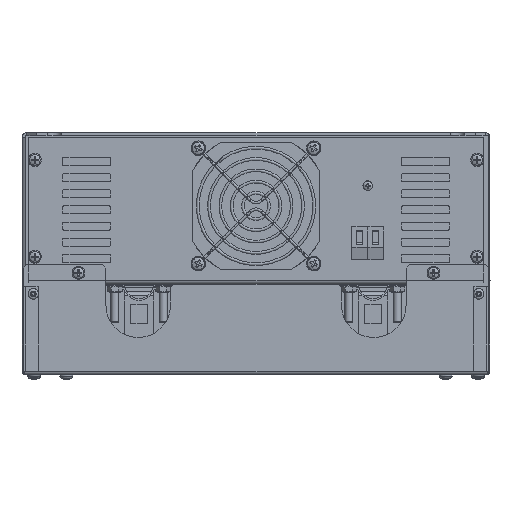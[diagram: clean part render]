
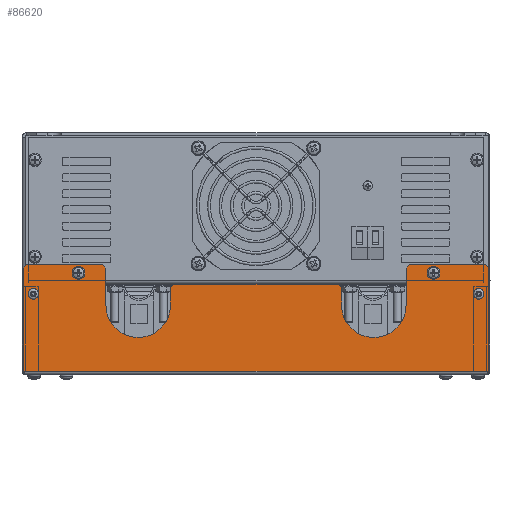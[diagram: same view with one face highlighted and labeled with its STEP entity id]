
A CAD part, left-side view. The second image highlights one B-rep face of the part: STEP entity #86620.
In plain terms, the highlighted planar face has unit normal (-1, 0, 0).
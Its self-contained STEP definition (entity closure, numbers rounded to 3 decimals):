
#1431=FACE_BOUND('',#10617,.T.);
#1432=FACE_BOUND('',#10618,.T.);
#1433=FACE_BOUND('',#10619,.T.);
#1434=FACE_BOUND('',#10620,.T.);
#2852=PLANE('',#93436);
#5902=FACE_OUTER_BOUND('',#10616,.T.);
#10616=EDGE_LOOP('',(#62495,#62496,#62497,#62498,#62499,#62500,#62501,#62502,
#62503,#62504,#62505,#62506,#62507,#62508,#62509,#62510,#62511,#62512));
#10617=EDGE_LOOP('',(#62513));
#10618=EDGE_LOOP('',(#62514));
#10619=EDGE_LOOP('',(#62515,#62516));
#10620=EDGE_LOOP('',(#62517,#62518));
#15666=CIRCLE('',#91750,3.25);
#15685=CIRCLE('',#91782,3.25);
#15884=CIRCLE('',#92067,4.);
#15885=CIRCLE('',#92068,4.);
#16085=CIRCLE('',#92436,4.);
#16086=CIRCLE('',#92437,4.);
#16552=CIRCLE('',#93342,20.);
#16554=CIRCLE('',#93345,20.);
#21086=LINE('',#137866,#28592);
#21100=LINE('',#137907,#28606);
#21107=LINE('',#137931,#28613);
#21110=LINE('',#137936,#28616);
#21113=LINE('',#137941,#28619);
#21125=LINE('',#138009,#28631);
#21188=LINE('',#138246,#28694);
#21192=LINE('',#138254,#28698);
#21194=LINE('',#138257,#28700);
#21198=LINE('',#138264,#28704);
#21200=LINE('',#138267,#28706);
#21213=LINE('',#138395,#28719);
#21261=LINE('',#138545,#28767);
#21262=LINE('',#138548,#28768);
#21263=LINE('',#138549,#28769);
#21264=LINE('',#138550,#28770);
#28592=VECTOR('',#108008,10.);
#28606=VECTOR('',#108030,10.);
#28613=VECTOR('',#108053,10.);
#28616=VECTOR('',#108058,10.);
#28619=VECTOR('',#108063,10.);
#28631=VECTOR('',#108087,10.);
#28694=VECTOR('',#108218,10.);
#28698=VECTOR('',#108224,10.);
#28700=VECTOR('',#108228,10.);
#28704=VECTOR('',#108234,10.);
#28706=VECTOR('',#108238,10.);
#28719=VECTOR('',#108269,10.);
#28767=VECTOR('',#108381,10.);
#28768=VECTOR('',#108384,10.);
#28769=VECTOR('',#108385,10.);
#28770=VECTOR('',#108386,10.);
#36262=VERTEX_POINT('',#129751);
#36279=VERTEX_POINT('',#129834);
#36629=VERTEX_POINT('',#131398);
#36630=VERTEX_POINT('',#131399);
#36970=VERTEX_POINT('',#133690);
#36971=VERTEX_POINT('',#133691);
#37781=VERTEX_POINT('',#137860);
#37782=VERTEX_POINT('',#137865);
#37792=VERTEX_POINT('',#137901);
#37794=VERTEX_POINT('',#137905);
#37795=VERTEX_POINT('',#137909);
#37797=VERTEX_POINT('',#137915);
#37798=VERTEX_POINT('',#137916);
#37803=VERTEX_POINT('',#137930);
#37804=VERTEX_POINT('',#137934);
#37805=VERTEX_POINT('',#137939);
#37813=VERTEX_POINT('',#138006);
#37853=VERTEX_POINT('',#138242);
#37855=VERTEX_POINT('',#138245);
#37857=VERTEX_POINT('',#138251);
#37860=VERTEX_POINT('',#138261);
#37869=VERTEX_POINT('',#138392);
#37900=VERTEX_POINT('',#138542);
#37901=VERTEX_POINT('',#138547);
#44916=EDGE_CURVE('',#36262,#36262,#15666,.T.);
#44942=EDGE_CURVE('',#36279,#36279,#15685,.T.);
#45375=EDGE_CURVE('',#36629,#36630,#15884,.T.);
#45376=EDGE_CURVE('',#36630,#36629,#15885,.T.);
#45870=EDGE_CURVE('',#36970,#36971,#16085,.T.);
#45871=EDGE_CURVE('',#36971,#36970,#16086,.T.);
#47070=EDGE_CURVE('',#37781,#37782,#21086,.T.);
#47086=EDGE_CURVE('',#37792,#37794,#21100,.T.);
#47087=EDGE_CURVE('',#37794,#37795,#16552,.T.);
#47090=EDGE_CURVE('',#37797,#37798,#16554,.T.);
#47097=EDGE_CURVE('',#37792,#37803,#21107,.T.);
#47100=EDGE_CURVE('',#37798,#37804,#21110,.T.);
#47103=EDGE_CURVE('',#37805,#37804,#21113,.T.);
#47119=EDGE_CURVE('',#37813,#37781,#21125,.T.);
#47192=EDGE_CURVE('',#37855,#37853,#21188,.T.);
#47196=EDGE_CURVE('',#37795,#37857,#21192,.T.);
#47198=EDGE_CURVE('',#37855,#37857,#21194,.T.);
#47202=EDGE_CURVE('',#37860,#37797,#21198,.T.);
#47204=EDGE_CURVE('',#37860,#37853,#21200,.T.);
#47222=EDGE_CURVE('',#37869,#37805,#21213,.T.);
#47278=EDGE_CURVE('',#37900,#37782,#21261,.T.);
#47279=EDGE_CURVE('',#37901,#37813,#21262,.T.);
#47280=EDGE_CURVE('',#37901,#37803,#21263,.T.);
#47281=EDGE_CURVE('',#37900,#37869,#21264,.T.);
#62495=ORIENTED_EDGE('',*,*,#47279,.F.);
#62496=ORIENTED_EDGE('',*,*,#47280,.T.);
#62497=ORIENTED_EDGE('',*,*,#47097,.F.);
#62498=ORIENTED_EDGE('',*,*,#47086,.T.);
#62499=ORIENTED_EDGE('',*,*,#47087,.T.);
#62500=ORIENTED_EDGE('',*,*,#47196,.T.);
#62501=ORIENTED_EDGE('',*,*,#47198,.F.);
#62502=ORIENTED_EDGE('',*,*,#47192,.T.);
#62503=ORIENTED_EDGE('',*,*,#47204,.F.);
#62504=ORIENTED_EDGE('',*,*,#47202,.T.);
#62505=ORIENTED_EDGE('',*,*,#47090,.T.);
#62506=ORIENTED_EDGE('',*,*,#47100,.T.);
#62507=ORIENTED_EDGE('',*,*,#47103,.F.);
#62508=ORIENTED_EDGE('',*,*,#47222,.F.);
#62509=ORIENTED_EDGE('',*,*,#47281,.F.);
#62510=ORIENTED_EDGE('',*,*,#47278,.T.);
#62511=ORIENTED_EDGE('',*,*,#47070,.F.);
#62512=ORIENTED_EDGE('',*,*,#47119,.F.);
#62513=ORIENTED_EDGE('',*,*,#44916,.T.);
#62514=ORIENTED_EDGE('',*,*,#44942,.T.);
#62515=ORIENTED_EDGE('',*,*,#45375,.T.);
#62516=ORIENTED_EDGE('',*,*,#45376,.T.);
#62517=ORIENTED_EDGE('',*,*,#45870,.T.);
#62518=ORIENTED_EDGE('',*,*,#45871,.T.);
#86620=ADVANCED_FACE('',(#5902,#1431,#1432,#1433,#1434),#2852,.T.);
#91750=AXIS2_PLACEMENT_3D('',#129752,#104072,#104073);
#91782=AXIS2_PLACEMENT_3D('',#129835,#104143,#104144);
#92067=AXIS2_PLACEMENT_3D('',#131400,#104863,#104864);
#92068=AXIS2_PLACEMENT_3D('',#131401,#104865,#104866);
#92436=AXIS2_PLACEMENT_3D('',#133692,#105727,#105728);
#92437=AXIS2_PLACEMENT_3D('',#133693,#105729,#105730);
#93342=AXIS2_PLACEMENT_3D('',#137910,#108033,#108034);
#93345=AXIS2_PLACEMENT_3D('',#137917,#108040,#108041);
#93436=AXIS2_PLACEMENT_3D('',#138546,#108382,#108383);
#104072=DIRECTION('center_axis',(1.,0.,0.));
#104073=DIRECTION('ref_axis',(0.,0.,
1.));
#104143=DIRECTION('center_axis',(1.,0.,0.));
#104144=DIRECTION('ref_axis',(0.,0.,
1.));
#104863=DIRECTION('center_axis',(1.,0.,0.));
#104864=DIRECTION('ref_axis',(0.,1.,0.));
#104865=DIRECTION('center_axis',(1.,0.,0.));
#104866=DIRECTION('ref_axis',(0.,1.,0.));
#105727=DIRECTION('center_axis',(1.,0.,0.));
#105728=DIRECTION('ref_axis',(0.,1.,0.));
#105729=DIRECTION('center_axis',(1.,0.,0.));
#105730=DIRECTION('ref_axis',(0.,1.,0.));
#108008=DIRECTION('',(0.,1.,0.));
#108030=DIRECTION('',(0.,0.,-1.));
#108033=DIRECTION('center_axis',(1.,0.,0.));
#108034=DIRECTION('ref_axis',(0.,1.,0.));
#108040=DIRECTION('center_axis',(1.,0.,0.));
#108041=DIRECTION('ref_axis',(0.,1.,0.));
#108053=DIRECTION('',(0.,-0.707,0.707));
#108058=DIRECTION('',(0.,0.,1.));
#108063=DIRECTION('',(0.,-0.707,-0.707));
#108087=DIRECTION('',(0.,0.,-1.));
#108218=DIRECTION('',(0.,1.,0.));
#108224=DIRECTION('',(0.,0.,1.));
#108228=DIRECTION('',(0.,-0.707,-0.707));
#108234=DIRECTION('',(0.,0.,-1.));
#108238=DIRECTION('',(0.,-0.707,0.707));
#108269=DIRECTION('',(0.,-1.,0.));
#108381=DIRECTION('',(0.,0.,-1.));
#108382=DIRECTION('center_axis',(-1.,0.,0.));
#108383=DIRECTION('ref_axis',(0.,1.,0.));
#108384=DIRECTION('',(0.,-0.707,-0.707));
#108385=DIRECTION('',(0.,1.,0.));
#108386=DIRECTION('',(0.,-0.707,0.707));
#129751=CARTESIAN_POINT('',(-209.,138.,-101.25));
#129752=CARTESIAN_POINT('Origin',(-209.,138.,-98.));
#129834=CARTESIAN_POINT('',(-209.,-138.,-101.25));
#129835=CARTESIAN_POINT('Origin',(-209.,-138.,-98.));
#131398=CARTESIAN_POINT('',(-209.,114.,-85.));
#131399=CARTESIAN_POINT('',(-209.,106.,-85.));
#131400=CARTESIAN_POINT('Origin',(-209.,110.,-85.));
#131401=CARTESIAN_POINT('Origin',(-209.,110.,-85.));
#133690=CARTESIAN_POINT('',(-209.,-106.,-85.));
#133691=CARTESIAN_POINT('',(-209.,-114.,-85.));
#133692=CARTESIAN_POINT('Origin',(-209.,-110.,-85.));
#133693=CARTESIAN_POINT('Origin',(-209.,-110.,-85.));
#137860=CARTESIAN_POINT('',(-209.,-143.993,-146.));
#137865=CARTESIAN_POINT('',(-209.,143.993,-146.));
#137866=CARTESIAN_POINT('',(-209.,714.514,-146.));
#137901=CARTESIAN_POINT('',(-209.,-93.,-82.));
#137905=CARTESIAN_POINT('',(-209.,-93.,-105.));
#137907=CARTESIAN_POINT('',(-209.,-93.,-78.177));
#137909=CARTESIAN_POINT('',(-209.,-53.,-105.));
#137910=CARTESIAN_POINT('Origin',(-209.,-73.,-105.));
#137915=CARTESIAN_POINT('',(-209.,53.,-105.));
#137916=CARTESIAN_POINT('',(-209.,93.,-105.));
#137917=CARTESIAN_POINT('Origin',(-209.,73.,-105.));
#137930=CARTESIAN_POINT('',(-209.,-95.,-80.));
#137931=CARTESIAN_POINT('',(-209.,-62.25,-112.75));
#137934=CARTESIAN_POINT('',(-209.,93.,-82.));
#137936=CARTESIAN_POINT('',(-209.,93.,-109.5));
#137939=CARTESIAN_POINT('',(-209.,95.,-80.));
#137941=CARTESIAN_POINT('',(-209.,62.25,-112.75));
#138006=CARTESIAN_POINT('',(-209.,-143.993,-82.));
#138009=CARTESIAN_POINT('',(-209.,-143.993,-146.));
#138242=CARTESIAN_POINT('',(-209.,51.,-92.));
#138245=CARTESIAN_POINT('',(-209.,-51.,-92.));
#138246=CARTESIAN_POINT('',(-209.,-32.422,-92.));
#138251=CARTESIAN_POINT('',(-209.,-53.,-94.));
#138254=CARTESIAN_POINT('',(-209.,-53.,-109.5));
#138257=CARTESIAN_POINT('',(-209.,-44.25,-85.25));
#138261=CARTESIAN_POINT('',(-209.,53.,-94.));
#138264=CARTESIAN_POINT('',(-209.,53.,-78.177));
#138267=CARTESIAN_POINT('',(-209.,44.25,-85.25));
#138392=CARTESIAN_POINT('',(-209.,141.993,-80.));
#138395=CARTESIAN_POINT('',(-209.,-141.5,-80.));
#138542=CARTESIAN_POINT('',(-209.,143.993,-82.));
#138545=CARTESIAN_POINT('',(-209.,143.993,-146.));
#138546=CARTESIAN_POINT('Origin',(-209.,0.,
-114.));
#138547=CARTESIAN_POINT('',(-209.,-141.993,-80.));
#138548=CARTESIAN_POINT('',(-209.,-115.495,-53.502));
#138549=CARTESIAN_POINT('',(-209.,-780.264,-80.));
#138550=CARTESIAN_POINT('',(-209.,115.495,-53.502));
